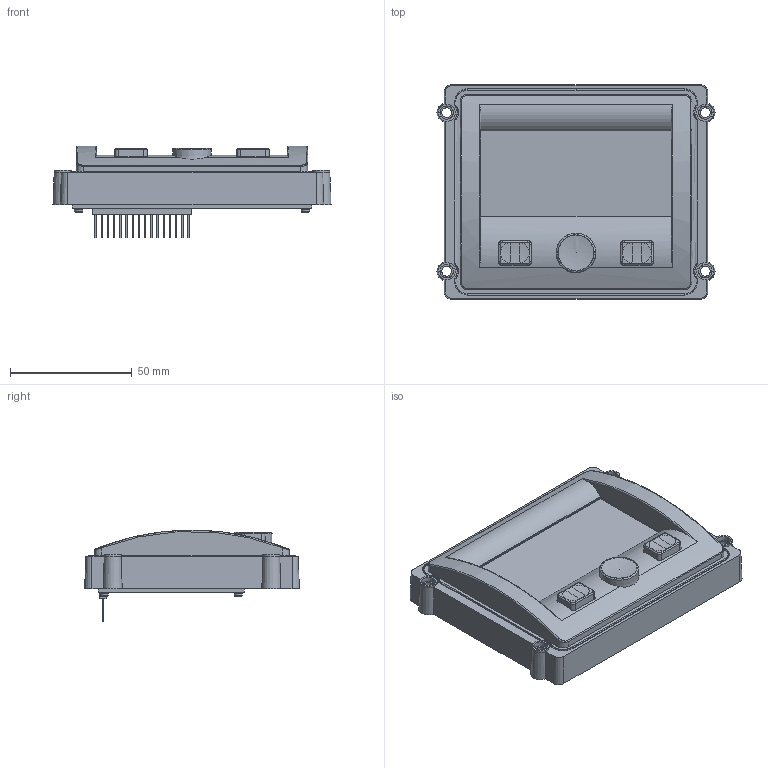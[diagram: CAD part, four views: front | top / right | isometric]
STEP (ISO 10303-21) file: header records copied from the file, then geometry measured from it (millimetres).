
FILE_DESCRIPTION (( 'STEP AP214' ), '1' );
FILE_NAME ('5000_Display_Bezel.STEP', '2025-01-06T11:54:39', ( '' ), ( '' ), 'SwSTEP 2.0', 'SolidWorks 2024', '' );
FILE_SCHEMA (( 'AUTOMOTIVE_DESIGN' ));
Length unit declared in the file: millimetre
Products named in the file (1): 5000_Display_Bezel
Bounding box: 114 x 88 x 37.6 mm (x, y, z)
Surface area: 45124.1 mm2 (no closed solid volume)
Topology: 0 solids, 11 shells, 474 faces, 1468 edges, 1009 vertices
Faces by surface type: plane 300, bspline 62, cone 60, cylinder 44, torus 8
Full cylindrical faces by diameter (mm): 2.7 x1, 3.35 x4, 3.8 x1
Entity records: 26045 total; most frequent: CARTESIAN_POINT 14387, ORIENTED_EDGE 2381, DIRECTION 2012, EDGE_CURVE 1401, VERTEX_POINT 985, VECTOR 858, LINE 858, EDGE_LOOP 585
